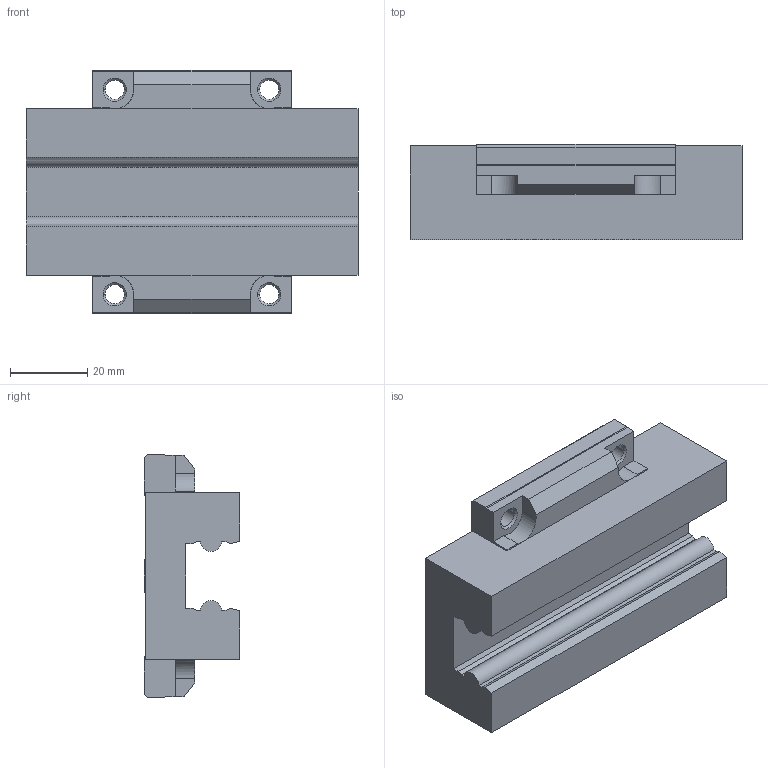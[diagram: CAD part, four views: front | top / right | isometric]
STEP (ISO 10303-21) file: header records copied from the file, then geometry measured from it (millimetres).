
FILE_DESCRIPTION( ( '' ), '1' );
FILE_NAME( 'c:/dr_tretter_step_out/schienenfuehrungen/alu_sf/fns_2000.stp', '2008-09-03T09:11:47', ( '' ), ( '' ), ' ', ' ', ' ' );
FILE_SCHEMA( ( 'CONFIG_CONTROL_DESIGN' ) );
Length unit declared in the file: millimetre
Products named in the file (1): 1
Bounding box: 86 x 24.7 x 63 mm (x, y, z)
Volume: 81123.6 mm3; surface area: 18928.2 mm2
Topology: 1 solids, 1 shells, 102 faces, 272 edges, 172 vertices
Faces by surface type: plane 72, cone 16, cylinder 14
Entity records: 3180 total; most frequent: CARTESIAN_POINT 547, ORIENTED_EDGE 544, DIRECTION 526, EDGE_CURVE 272, LINE 224, VECTOR 224, VERTEX_POINT 172, AXIS2_PLACEMENT_3D 151
